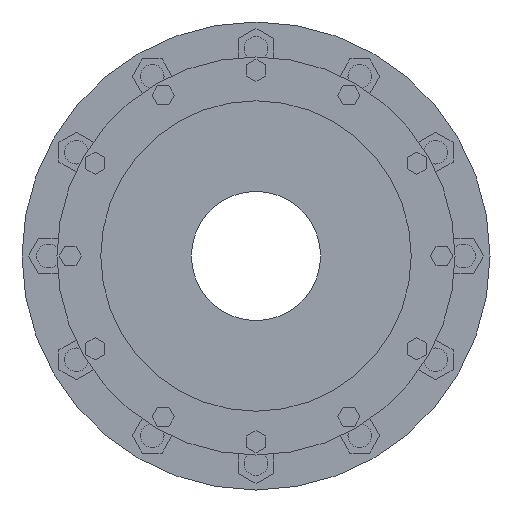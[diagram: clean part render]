
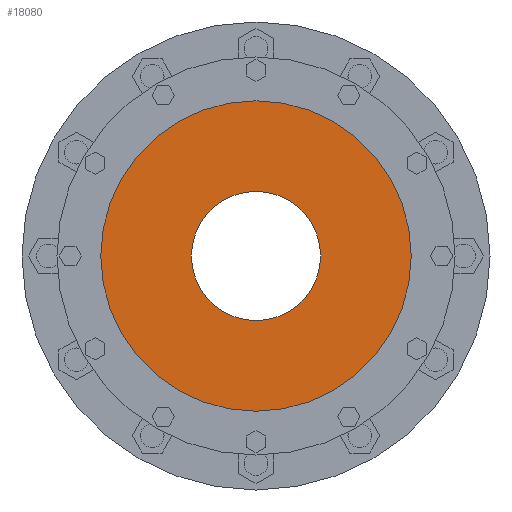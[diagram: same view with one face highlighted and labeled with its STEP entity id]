
A CAD part, left-side view. The second image highlights one B-rep face of the part: STEP entity #18080.
In plain terms, the highlighted planar face has unit normal (-1, 0, 0).
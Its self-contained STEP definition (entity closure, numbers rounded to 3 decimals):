
#17778=CARTESIAN_POINT('',(-427.5,0.,0.));
#17779=DIRECTION('',(1.,0.,0.));
#17780=DIRECTION('',(0.,1.,0.));
#17781=AXIS2_PLACEMENT_3D('',#17778,#17779,#17780);
#17857=CARTESIAN_POINT('',(-427.5,0.,0.));
#17858=DIRECTION('',(-1.,0.,0.));
#17859=DIRECTION('',(0.,1.,0.));
#17860=AXIS2_PLACEMENT_3D('',#17857,#17858,#17859);
#17862=CARTESIAN_POINT('',(-427.5,0.,0.));
#17863=DIRECTION('',(1.,0.,0.));
#17864=DIRECTION('',(0.,1.,0.));
#17865=AXIS2_PLACEMENT_3D('',#17862,#17863,#17864);
#17876=CARTESIAN_POINT('',(-427.5,0.,0.));
#17877=DIRECTION('',(-1.,0.,0.));
#17878=DIRECTION('',(0.,1.,0.));
#17879=AXIS2_PLACEMENT_3D('',#17876,#17877,#17878);
#17885=CARTESIAN_POINT('',(-427.5,60.,0.));
#17886=CARTESIAN_POINT('',(-427.5,-60.,0.));
#17887=VERTEX_POINT('',#17885);
#17888=VERTEX_POINT('',#17886);
#17889=CARTESIAN_POINT('',(-427.5,144.25,0.));
#17890=CARTESIAN_POINT('',(-427.5,-144.25,0.));
#17891=VERTEX_POINT('',#17889);
#17892=VERTEX_POINT('',#17890);
#18066=CARTESIAN_POINT('',(-427.5,0.,0.));
#18067=DIRECTION('',(1.,0.,0.));
#18068=DIRECTION('',(0.,-1.,0.));
#18069=AXIS2_PLACEMENT_3D('',#18066,#18067,#18068);
#18070=PLANE('',#18069);
#18071=ORIENTED_EDGE('',*,*,#18048,.F.);
#18072=ORIENTED_EDGE('',*,*,#18061,.T.);
#18073=EDGE_LOOP('',(#18071,#18072));
#18074=FACE_OUTER_BOUND('',#18073,.F.);
#18075=ORIENTED_EDGE('',*,*,#17926,.F.);
#18077=ORIENTED_EDGE('',*,*,#18076,.T.);
#18078=EDGE_LOOP('',(#18075,#18077));
#18079=FACE_BOUND('',#18078,.F.);
#18080=ADVANCED_FACE('',(#18074,#18079),#18070,.F.);
#17782=CIRCLE('',#17781,60.);
#17861=CIRCLE('',#17860,144.25);
#17866=CIRCLE('',#17865,144.25);
#17880=CIRCLE('',#17879,60.);
#17926=EDGE_CURVE('',#17887,#17888,#17782,.T.);
#18048=EDGE_CURVE('',#17891,#17892,#17861,.T.);
#18061=EDGE_CURVE('',#17891,#17892,#17866,.T.);
#18076=EDGE_CURVE('',#17887,#17888,#17880,.T.);
